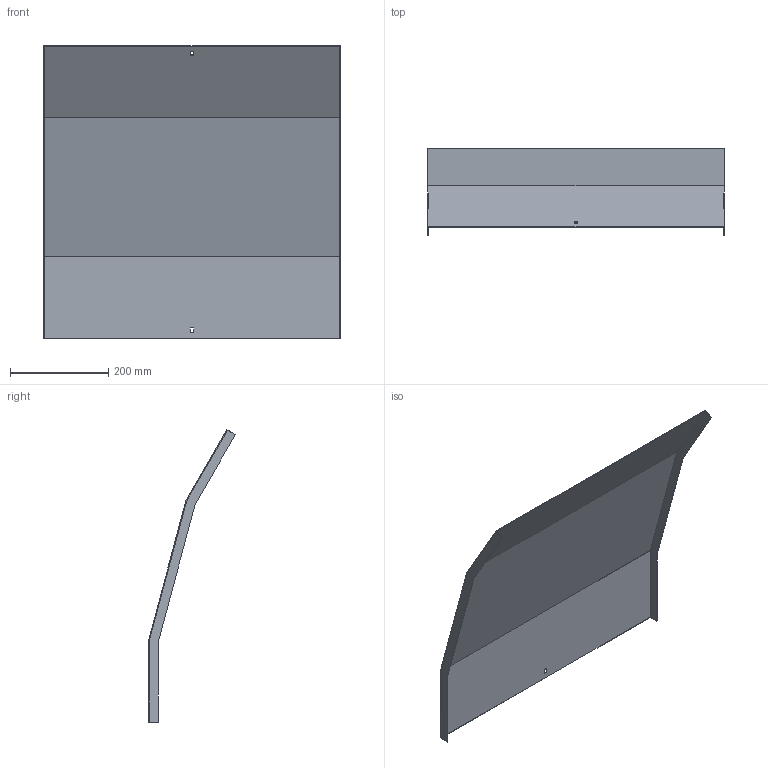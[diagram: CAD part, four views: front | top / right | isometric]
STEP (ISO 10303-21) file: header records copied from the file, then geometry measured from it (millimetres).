
FILE_DESCRIPTION (( 'STEP AP214' ), '1' );
FILE_NAME ('35N5J600.step', '2025-02-21T10:29:48', ( '' ), ( '' ), 'SwSTEP 2.0', 'SolidWorks 2023', '' );
FILE_SCHEMA (( 'AUTOMOTIVE_DESIGN' ));
Length unit declared in the file: millimetre
Products named in the file (1): 35N5J600
Bounding box: 603 x 176.54 x 594.21 mm (x, y, z)
Volume: 600624 mm3; surface area: 804694.2 mm2
Topology: 1 solids, 1 shells, 26 faces, 72 edges, 48 vertices
Faces by surface type: plane 26
Entity records: 847 total; most frequent: CARTESIAN_POINT 147, ORIENTED_EDGE 144, DIRECTION 126, LINE 72, EDGE_CURVE 72, VECTOR 72, VERTEX_POINT 48, EDGE_LOOP 30
